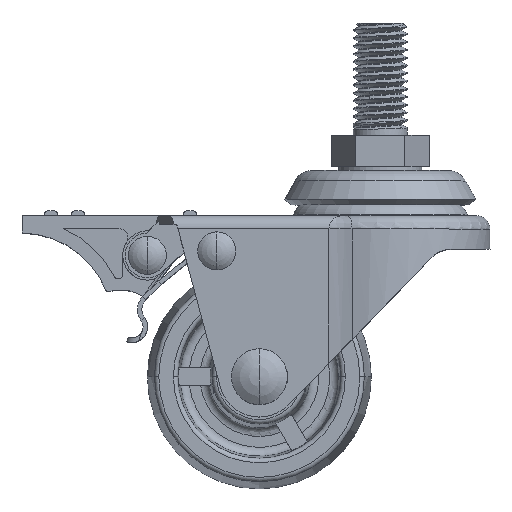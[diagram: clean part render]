
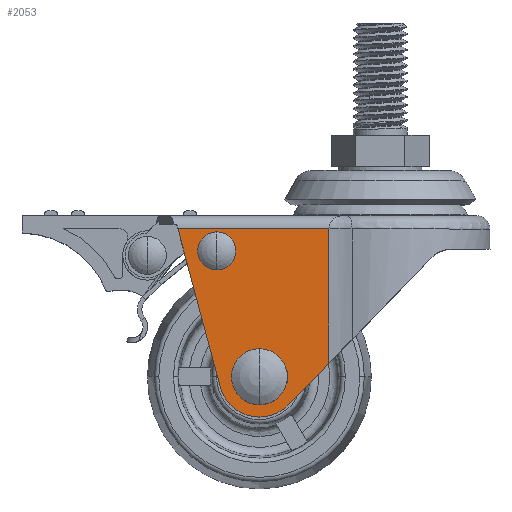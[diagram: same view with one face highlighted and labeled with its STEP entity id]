
A CAD part, top view. The second image highlights one B-rep face of the part: STEP entity #2053.
In plain terms, the highlighted planar face has unit normal (0, 0, 1).
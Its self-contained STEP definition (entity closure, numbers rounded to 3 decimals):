
#580=DIRECTION('',(-1.,0.,0.));
#581=VECTOR('',#580,1.437);
#582=CARTESIAN_POINT('',(-103.078,25.446,23.));
#583=LINE('',#582,#581);
#584=CARTESIAN_POINT('',(-104.515,26.946,23.));
#585=DIRECTION('',(0.,0.,1.));
#586=DIRECTION('',(-0.866,-0.5,0.));
#587=AXIS2_PLACEMENT_3D('',#584,#585,#586);
#589=CARTESIAN_POINT('',(-109.278,24.196,23.));
#590=DIRECTION('',(0.,0.,1.));
#591=DIRECTION('',(0.866,0.5,0.));
#592=AXIS2_PLACEMENT_3D('',#589,#590,#591);
#594=CARTESIAN_POINT('',(-104.515,21.446,23.));
#595=DIRECTION('',(0.,0.,1.));
#596=DIRECTION('',(0.,1.,0.));
#597=AXIS2_PLACEMENT_3D('',#594,#595,#596);
#599=DIRECTION('',(1.,0.,0.));
#600=VECTOR('',#599,1.437);
#601=CARTESIAN_POINT('',(-104.515,22.946,23.));
#602=LINE('',#601,#600);
#603=DIRECTION('',(0.,1.,0.));
#604=VECTOR('',#603,2.5);
#605=CARTESIAN_POINT('',(-103.078,22.946,23.));
#606=LINE('',#605,#604);
#607=DIRECTION('',(0.,1.,0.));
#608=VECTOR('',#607,29.93);
#609=CARTESIAN_POINT('',(-93.734,27.266,23.));
#610=LINE('',#609,#608);
#611=DIRECTION('',(-0.697,-0.717,0.));
#612=VECTOR('',#611,13.039);
#613=CARTESIAN_POINT('',(-93.734,27.266,23.));
#614=LINE('',#613,#612);
#615=CARTESIAN_POINT('',(-109.278,24.196,23.));
#616=DIRECTION('',(0.,0.,1.));
#617=DIRECTION('',(-0.966,-0.259,0.));
#618=AXIS2_PLACEMENT_3D('',#615,#616,#617);
#620=DIRECTION('',(-0.259,0.966,0.));
#621=VECTOR('',#620,36.583);
#622=CARTESIAN_POINT('',(-117.97,21.863,23.));
#623=LINE('',#622,#621);
#624=DIRECTION('',(1.,0.,0.));
#625=VECTOR('',#624,33.719);
#626=CARTESIAN_POINT('',(-127.453,57.196,23.));
#627=LINE('',#626,#625);
#628=CARTESIAN_POINT('',(-118.778,52.296,23.));
#629=DIRECTION('',(0.,0.,-1.));
#630=DIRECTION('',(-1.,0.,0.));
#631=AXIS2_PLACEMENT_3D('',#628,#629,#630);
#633=CARTESIAN_POINT('',(-118.778,52.296,23.));
#634=DIRECTION('',(0.,0.,-1.));
#635=DIRECTION('',(1.,0.,0.));
#636=AXIS2_PLACEMENT_3D('',#633,#634,#635);
#663=CARTESIAN_POINT('',(-127.453,57.196,23.));
#719=CARTESIAN_POINT('',(-93.734,57.196,23.));
#1130=CARTESIAN_POINT('',(-117.97,21.863,23.));
#1131=CARTESIAN_POINT('',(-102.827,17.92,23.));
#1132=VERTEX_POINT('',#1130);
#1133=VERTEX_POINT('',#1131);
#1170=CARTESIAN_POINT('',(-103.078,25.446,23.));
#1171=CARTESIAN_POINT('',(-104.515,25.446,23.));
#1172=VERTEX_POINT('',#1170);
#1173=VERTEX_POINT('',#1171);
#1174=CARTESIAN_POINT('',(-105.814,26.196,23.));
#1175=VERTEX_POINT('',#1174);
#1176=CARTESIAN_POINT('',(-105.814,22.196,23.));
#1177=VERTEX_POINT('',#1176);
#1178=CARTESIAN_POINT('',(-104.515,22.946,23.));
#1179=VERTEX_POINT('',#1178);
#1180=CARTESIAN_POINT('',(-103.078,22.946,23.));
#1181=VERTEX_POINT('',#1180);
#1247=VERTEX_POINT('',#663);
#1260=VERTEX_POINT('',#719);
#1261=CARTESIAN_POINT('',(-93.734,27.266,23.));
#1262=VERTEX_POINT('',#1261);
#1309=CARTESIAN_POINT('',(-121.328,52.296,23.));
#1310=CARTESIAN_POINT('',(-116.228,52.296,23.));
#1311=VERTEX_POINT('',#1309);
#1312=VERTEX_POINT('',#1310);
#2024=CARTESIAN_POINT('',(-142.278,60.196,23.));
#2025=DIRECTION('',(0.,0.,1.));
#2026=DIRECTION('',(1.,0.,0.));
#2027=AXIS2_PLACEMENT_3D('',#2024,#2025,#2026);
#2028=PLANE('',#2027);
#2029=ORIENTED_EDGE('',*,*,#2015,.F.);
#2030=ORIENTED_EDGE('',*,*,#1905,.T.);
#2032=ORIENTED_EDGE('',*,*,#2031,.F.);
#2034=ORIENTED_EDGE('',*,*,#2033,.T.);
#2036=ORIENTED_EDGE('',*,*,#2035,.T.);
#2037=EDGE_LOOP('',(#2029,#2030,#2032,#2034,#2036));
#2038=FACE_OUTER_BOUND('',#2037,.F.);
#2039=ORIENTED_EDGE('',*,*,#1647,.T.);
#2040=ORIENTED_EDGE('',*,*,#1823,.F.);
#2041=ORIENTED_EDGE('',*,*,#1796,.T.);
#2042=ORIENTED_EDGE('',*,*,#1768,.F.);
#2043=ORIENTED_EDGE('',*,*,#1740,.T.);
#2044=ORIENTED_EDGE('',*,*,#1712,.T.);
#2045=EDGE_LOOP('',(#2039,#2040,#2041,#2042,#2043,#2044));
#2046=FACE_BOUND('',#2045,.F.);
#2048=ORIENTED_EDGE('',*,*,#2047,.F.);
#2050=ORIENTED_EDGE('',*,*,#2049,.F.);
#2051=EDGE_LOOP('',(#2048,#2050));
#2052=FACE_BOUND('',#2051,.F.);
#588=CIRCLE('',#587,1.5);
#593=CIRCLE('',#592,4.);
#598=CIRCLE('',#597,1.5);
#619=CIRCLE('',#618,9.);
#632=CIRCLE('',#631,2.55);
#637=CIRCLE('',#636,2.55);
#1647=EDGE_CURVE('',#1172,#1173,#583,.T.);
#1712=EDGE_CURVE('',#1181,#1172,#606,.T.);
#1740=EDGE_CURVE('',#1179,#1181,#602,.T.);
#1768=EDGE_CURVE('',#1179,#1177,#598,.T.);
#1796=EDGE_CURVE('',#1175,#1177,#593,.T.);
#1823=EDGE_CURVE('',#1175,#1173,#588,.T.);
#1905=EDGE_CURVE('',#1262,#1133,#614,.T.);
#2015=EDGE_CURVE('',#1262,#1260,#610,.T.);
#2031=EDGE_CURVE('',#1132,#1133,#619,.T.);
#2033=EDGE_CURVE('',#1132,#1247,#623,.T.);
#2035=EDGE_CURVE('',#1247,#1260,#627,.T.);
#2047=EDGE_CURVE('',#1311,#1312,#632,.T.);
#2049=EDGE_CURVE('',#1312,#1311,#637,.T.);
#2053=ADVANCED_FACE('',(#2038,#2046,#2052),#2028,.T.);
